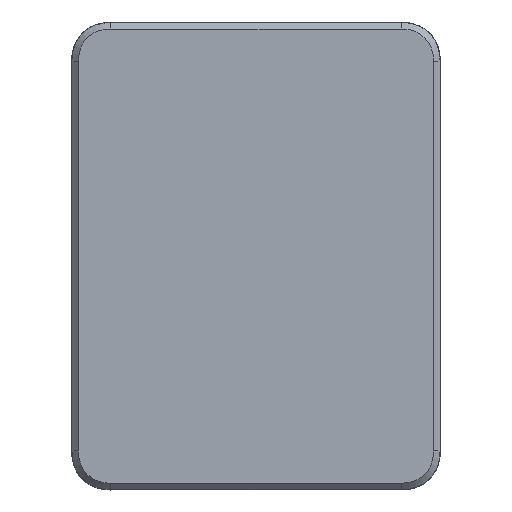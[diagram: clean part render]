
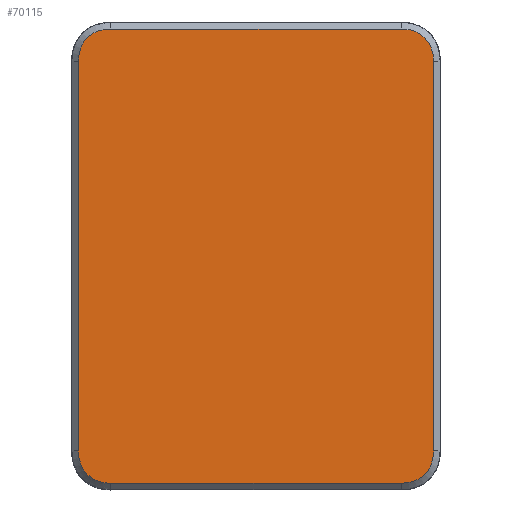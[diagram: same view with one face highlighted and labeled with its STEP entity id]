
A CAD part, top view. The second image highlights one B-rep face of the part: STEP entity #70115.
In plain terms, the highlighted planar face has unit normal (0, 0, 1).
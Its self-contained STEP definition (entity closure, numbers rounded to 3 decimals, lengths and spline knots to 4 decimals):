
#10416=CARTESIAN_POINT('',(-1.3758,-1.5151,
0.266));
#10417=CARTESIAN_POINT('',(-1.3758,-1.5344,
0.266));
#10418=CARTESIAN_POINT('',(-1.3725,-1.5721,
0.266));
#10419=CARTESIAN_POINT('',(-1.3586,-1.6219,
0.266));
#10420=CARTESIAN_POINT('',(-1.3369,-1.664,
0.266));
#10421=CARTESIAN_POINT('',(-1.3087,-1.6987,
0.266));
#10422=CARTESIAN_POINT('',(-1.2738,-1.7268,
0.266));
#10423=CARTESIAN_POINT('',(-1.2315,-1.7483,
0.266));
#10424=CARTESIAN_POINT('',(-1.182,-1.7619,
0.266));
#10425=CARTESIAN_POINT('',(-1.1446,-1.7651,
0.266));
#10426=CARTESIAN_POINT('',(-1.1258,-1.7651,
0.266));
#10428=DIRECTION('',(0.,-1.,0.));
#10429=VECTOR('',#10428,3.019);
#10430=CARTESIAN_POINT('',(-1.3759,1.5039,
0.266));
#10431=LINE('',#10430,#10429);
#10432=CARTESIAN_POINT('',(-1.1259,1.7539,
0.266));
#10433=CARTESIAN_POINT('',(-1.1452,1.7539,
0.266));
#10434=CARTESIAN_POINT('',(-1.1829,1.7506,
0.266));
#10435=CARTESIAN_POINT('',(-1.2327,1.7367,
0.266));
#10436=CARTESIAN_POINT('',(-1.2748,1.715,
0.266));
#10437=CARTESIAN_POINT('',(-1.3095,1.6868,
0.266));
#10438=CARTESIAN_POINT('',(-1.3376,1.652,
0.266));
#10439=CARTESIAN_POINT('',(-1.3591,1.6096,
0.266));
#10440=CARTESIAN_POINT('',(-1.3727,1.5601,
0.266));
#10441=CARTESIAN_POINT('',(-1.3759,1.5228,
0.266));
#10442=CARTESIAN_POINT('',(-1.3759,1.5039,
0.266));
#10444=DIRECTION('',(-1.,0.,0.));
#10445=VECTOR('',#10444,2.252);
#10446=CARTESIAN_POINT('',(1.1261,1.754,
0.266));
#10447=LINE('',#10446,#10445);
#10448=CARTESIAN_POINT('',(1.3761,1.504,
0.266));
#10449=CARTESIAN_POINT('',(1.3761,1.5233,
0.266));
#10450=CARTESIAN_POINT('',(1.3728,1.561,
0.266));
#10451=CARTESIAN_POINT('',(1.3589,1.6108,
0.266));
#10452=CARTESIAN_POINT('',(1.3372,1.6529,
0.266));
#10453=CARTESIAN_POINT('',(1.309,1.6876,
0.266));
#10454=CARTESIAN_POINT('',(1.2742,1.7157,
0.266));
#10455=CARTESIAN_POINT('',(1.2318,1.7372,
0.266));
#10456=CARTESIAN_POINT('',(1.1823,1.7508,
0.266));
#10457=CARTESIAN_POINT('',(1.145,1.754,
0.266));
#10458=CARTESIAN_POINT('',(1.1261,1.754,
0.266));
#10460=DIRECTION('',(0.,1.,0.));
#10461=VECTOR('',#10460,3.019);
#10462=CARTESIAN_POINT('',(1.3762,-1.515,
0.266));
#10463=LINE('',#10462,#10461);
#10464=CARTESIAN_POINT('',(1.1262,-1.765,
0.266));
#10465=CARTESIAN_POINT('',(1.1455,-1.765,
0.266));
#10466=CARTESIAN_POINT('',(1.1832,-1.7617,
0.266));
#10467=CARTESIAN_POINT('',(1.233,-1.7478,
0.266));
#10468=CARTESIAN_POINT('',(1.2751,-1.7261,
0.266));
#10469=CARTESIAN_POINT('',(1.3098,-1.6979,
0.266));
#10470=CARTESIAN_POINT('',(1.3379,-1.6631,
0.266));
#10471=CARTESIAN_POINT('',(1.3594,-1.6207,
0.266));
#10472=CARTESIAN_POINT('',(1.373,-1.5712,
0.266));
#10473=CARTESIAN_POINT('',(1.3762,-1.5339,
0.266));
#10474=CARTESIAN_POINT('',(1.3762,-1.515,
0.266));
#10476=DIRECTION('',(1.,0.,0.));
#10477=VECTOR('',#10476,2.252);
#10478=CARTESIAN_POINT('',(-1.1258,-1.7651,
0.266));
#10479=LINE('',#10478,#10477);
#54060=VERTEX_POINT('',#10416);
#54061=VERTEX_POINT('',#10426);
#54062=CARTESIAN_POINT('',(1.1262,-1.765,
0.266));
#54063=VERTEX_POINT('',#54062);
#54064=VERTEX_POINT('',#10474);
#54065=CARTESIAN_POINT('',(1.3761,1.504,
0.266));
#54066=VERTEX_POINT('',#54065);
#54067=VERTEX_POINT('',#10458);
#54068=CARTESIAN_POINT('',(-1.1259,1.7539,
0.266));
#54069=VERTEX_POINT('',#54068);
#54070=VERTEX_POINT('',#10442);
#70093=CARTESIAN_POINT('',(0.0002,-0.0051,0.266));
#70094=DIRECTION('',(0.,0.,-1.));
#70095=DIRECTION('',(-1.,0.,0.));
#70096=AXIS2_PLACEMENT_3D('',#70093,#70094,#70095);
#70097=PLANE('',#70096);
#70099=ORIENTED_EDGE('',*,*,#70098,.F.);
#70101=ORIENTED_EDGE('',*,*,#70100,.F.);
#70102=ORIENTED_EDGE('',*,*,#70083,.F.);
#70104=ORIENTED_EDGE('',*,*,#70103,.F.);
#70106=ORIENTED_EDGE('',*,*,#70105,.F.);
#70108=ORIENTED_EDGE('',*,*,#70107,.F.);
#70110=ORIENTED_EDGE('',*,*,#70109,.F.);
#70112=ORIENTED_EDGE('',*,*,#70111,.F.);
#70113=EDGE_LOOP('',(#70099,#70101,#70102,#70104,#70106,#70108,#70110,#70112));
#70114=FACE_OUTER_BOUND('',#70113,.F.);
#70115=ADVANCED_FACE('',(#70114),#70097,.F.);
#10427=B_SPLINE_CURVE_WITH_KNOTS('',3,(#10416,#10417,#10418,#10419,#10420,
#10421,#10422,#10423,#10424,#10425,#10426),.UNSPECIFIED.,.F.,.F.,(4,1,1,1,1,1,1,
1,4),(0.,0.1199,0.2472,0.3744,
0.5016,0.6288,0.756,0.8832,1.),
.UNSPECIFIED.);
#10443=B_SPLINE_CURVE_WITH_KNOTS('',3,(#10432,#10433,#10434,#10435,#10436,
#10437,#10438,#10439,#10440,#10441,#10442),.UNSPECIFIED.,.F.,.F.,(4,1,1,1,1,1,1,
1,4),(0.,0.1199,0.2472,0.3744,
0.5016,0.6288,0.756,0.8832,1.),
.UNSPECIFIED.);
#10459=B_SPLINE_CURVE_WITH_KNOTS('',3,(#10448,#10449,#10450,#10451,#10452,
#10453,#10454,#10455,#10456,#10457,#10458),.UNSPECIFIED.,.F.,.F.,(4,1,1,1,1,1,1,
1,4),(0.,0.1199,0.2472,0.3744,
0.5016,0.6288,0.756,0.8832,1.),
.UNSPECIFIED.);
#10475=B_SPLINE_CURVE_WITH_KNOTS('',3,(#10464,#10465,#10466,#10467,#10468,
#10469,#10470,#10471,#10472,#10473,#10474),.UNSPECIFIED.,.F.,.F.,(4,1,1,1,1,1,1,
1,4),(0.,0.1199,0.2472,0.3744,
0.5016,0.6288,0.756,0.8832,1.),
.UNSPECIFIED.);
#70083=EDGE_CURVE('',#54069,#54070,#10443,.T.);
#70098=EDGE_CURVE('',#54060,#54061,#10427,.T.);
#70100=EDGE_CURVE('',#54070,#54060,#10431,.T.);
#70103=EDGE_CURVE('',#54067,#54069,#10447,.T.);
#70105=EDGE_CURVE('',#54066,#54067,#10459,.T.);
#70107=EDGE_CURVE('',#54064,#54066,#10463,.T.);
#70109=EDGE_CURVE('',#54063,#54064,#10475,.T.);
#70111=EDGE_CURVE('',#54061,#54063,#10479,.T.);
